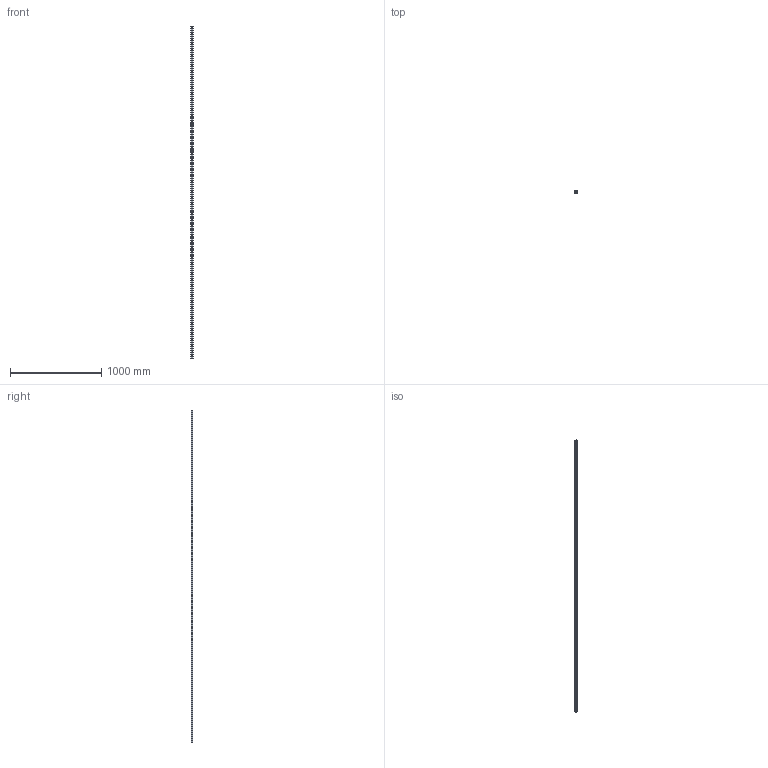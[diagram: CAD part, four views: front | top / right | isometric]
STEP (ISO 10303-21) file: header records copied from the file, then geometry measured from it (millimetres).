
FILE_DESCRIPTION (( 'STEP AP203' ), '1' );
FILE_NAME ('L1016.BL25-3640.step', '2019-06-12T12:16:06', ( '' ), ( '' ), 'SwSTEP 2.0', 'SolidWorks 2017', '' );
FILE_SCHEMA (( 'CONFIG_CONTROL_DESIGN' ));
Length unit declared in the file: millimetre
Products named in the file (1): L1016.BL25-3640
Bounding box: 23 x 19.2 x 3640 mm (x, y, z)
Volume: 1341481 mm3; surface area: 344191.5 mm2
Topology: 1 solids, 1 shells, 331 faces, 804 edges, 536 vertices
Faces by surface type: cylinder 248, plane 83
Entity records: 10295 total; most frequent: DIRECTION 1964, CARTESIAN_POINT 1672, ORIENTED_EDGE 1608, AXIS2_PLACEMENT_3D 828, EDGE_CURVE 804, VERTEX_POINT 536, EDGE_LOOP 514, CIRCLE 496
